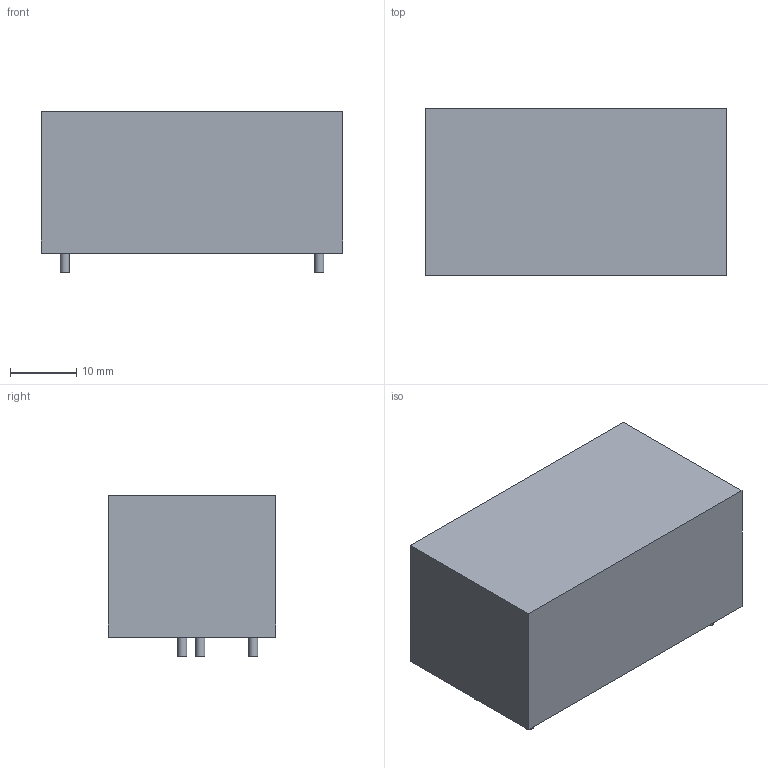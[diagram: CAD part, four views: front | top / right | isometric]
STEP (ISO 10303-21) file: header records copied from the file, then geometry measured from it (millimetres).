
FILE_DESCRIPTION(('Open CASCADE Model'),'2;1');
FILE_NAME('Open CASCADE Shape Model','2000-01-01T00:00:00',('Author'),( 'Open CASCADE'),'Open CASCADE STEP processor 7.9','Open CASCADE 7.9' ,'Unknown');
FILE_SCHEMA((''));
Length unit declared in the file: millimetre
Products named in the file (6): Open CASCADE STEP translator 7.9 1; Open CASCADE STEP translator 7.9 1.1; Open CASCADE STEP translator 7.9 1.2; Open CASCADE STEP translator 7.9 1.3; Open CASCADE STEP translator 7.9 1.4; Open CASCADE STEP translator 7.9 1.5
Assembly tree (5 placements, depth 2):
  Open CASCADE STEP translator 7.9 1
    Open CASCADE STEP translator 7.9 1.1
    Open CASCADE STEP translator 7.9 1.2
    Open CASCADE STEP translator 7.9 1.3
    Open CASCADE STEP translator 7.9 1.4
    Open CASCADE STEP translator 7.9 1.5
Bounding box: 45.7 x 25.4 x 24.5 mm (x, y, z)
Volume: 24975.2 mm3; surface area: 5444 mm2
Topology: 5 solids, 5 shells, 18 faces, 24 edges, 16 vertices
Faces by surface type: plane 14, cylinder 4
Full cylindrical faces by diameter (mm): 1.4 x4
Entity records: 780 total; most frequent: DIRECTION 128, CARTESIAN_POINT 112, LINE 56, VECTOR 56, ORIENTED_EDGE 48, PCURVE 48, DEFINITIONAL_REPRESENTATION 48, AXIS2_PLACEMENT_3D 32
